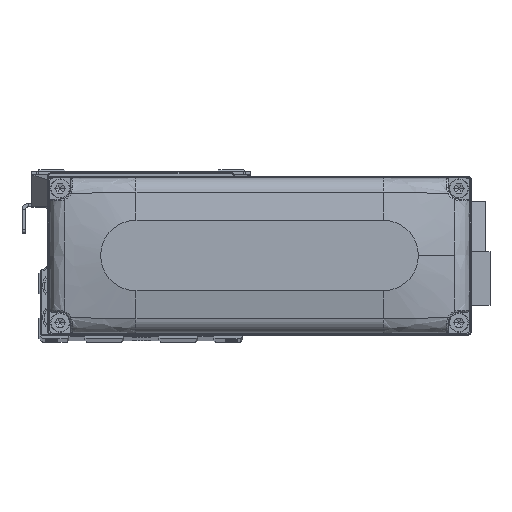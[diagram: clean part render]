
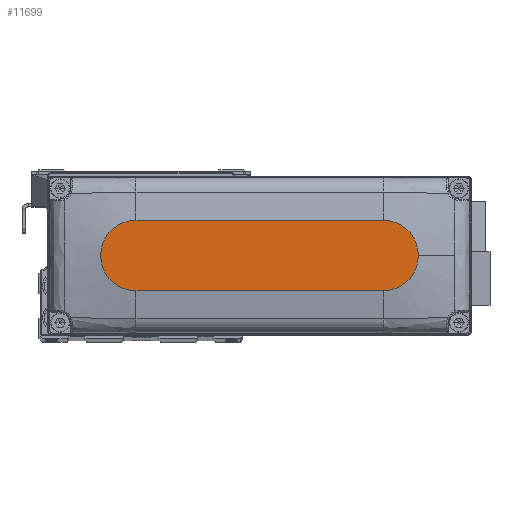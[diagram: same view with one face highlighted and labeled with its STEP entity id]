
A CAD part, top view. The second image highlights one B-rep face of the part: STEP entity #11699.
In plain terms, the highlighted planar face has unit normal (0, 0, 1).
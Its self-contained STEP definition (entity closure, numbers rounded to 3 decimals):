
#324 = DIRECTION ( 'NONE',  ( 0., 0., 1. ) ) ;
#519 = DIRECTION ( 'NONE',  ( -1., 0., 0. ) ) ;
#1099 = CIRCLE ( 'NONE', #25671, 10. ) ;
#1270 = CARTESIAN_POINT ( 'NONE',  ( 35., 0., 28. ) ) ;
#1683 = CARTESIAN_POINT ( 'NONE',  ( 0., 0., 28. ) ) ;
#2601 = CARTESIAN_POINT ( 'NONE',  ( 45., 0., 28. ) ) ;
#3646 = CARTESIAN_POINT ( 'NONE',  ( 35., 0., 28. ) ) ;
#4461 = ORIENTED_EDGE ( 'NONE', *, *, #17756, .T. ) ;
#4503 = EDGE_CURVE ( 'NONE', #38512, #21686, #1099, .T. ) ;
#5297 = LINE ( 'NONE', #18702, #8513 ) ;
#7165 = EDGE_CURVE ( 'NONE', #21686, #17554, #15072, .T. ) ;
#8513 = VECTOR ( 'NONE', #32098, 1000. ) ;
#10632 = ORIENTED_EDGE ( 'NONE', *, *, #35135, .T. ) ;
#11102 = ORIENTED_EDGE ( 'NONE', *, *, #7165, .T. ) ;
#11470 = ORIENTED_EDGE ( 'NONE', *, *, #32830, .T. ) ;
#11699 = ADVANCED_FACE ( 'NONE', ( #18380 ), #31788, .T. ) ;
#13364 = CIRCLE ( 'NONE', #37922, 10. ) ;
#13744 = DIRECTION ( 'NONE',  ( 1., 0., 0. ) ) ;
#14694 = DIRECTION ( 'NONE',  ( 0., 0., 1. ) ) ;
#15072 = CIRCLE ( 'NONE', #39600, 10. ) ;
#15104 = DIRECTION ( 'NONE',  ( 0., 0., 1. ) ) ;
#17068 = DIRECTION ( 'NONE',  ( 0., 0., 1. ) ) ;
#17248 = LINE ( 'NONE', #30640, #26290 ) ;
#17554 = VERTEX_POINT ( 'NONE', #39215 ) ;
#17756 = EDGE_CURVE ( 'NONE', #18684, #40313, #13364, .T. ) ;
#18380 = FACE_OUTER_BOUND ( 'NONE', #28263, .T. ) ;
#18684 = VERTEX_POINT ( 'NONE', #35074 ) ;
#18702 = CARTESIAN_POINT ( 'NONE',  ( -35., -10., 28. ) ) ;
#21686 = VERTEX_POINT ( 'NONE', #2601 ) ;
#25513 = ORIENTED_EDGE ( 'NONE', *, *, #4503, .T. ) ;
#25671 = AXIS2_PLACEMENT_3D ( 'NONE', #3646, #17068, #30464 ) ;
#26290 = VECTOR ( 'NONE', #519, 1000. ) ;
#28086 = DIRECTION ( 'NONE',  ( 1., 0., 0. ) ) ;
#28263 = EDGE_LOOP ( 'NONE', ( #11470, #4461, #10632, #25513, #11102 ) ) ;
#28498 = DIRECTION ( 'NONE',  ( 1., 0., 0. ) ) ;
#30433 = CARTESIAN_POINT ( 'NONE',  ( -35., 0., 28. ) ) ;
#30464 = DIRECTION ( 'NONE',  ( 1., 0., 0. ) ) ;
#30640 = CARTESIAN_POINT ( 'NONE',  ( -35., 10., 28. ) ) ;
#31788 = PLANE ( 'NONE',  #43099 ) ;
#32098 = DIRECTION ( 'NONE',  ( 1., 0., 0. ) ) ;
#32830 = EDGE_CURVE ( 'NONE', #17554, #18684, #17248, .T. ) ;
#32969 = CARTESIAN_POINT ( 'NONE',  ( 35., -10., 28. ) ) ;
#34031 = CARTESIAN_POINT ( 'NONE',  ( -35., -10., 28. ) ) ;
#35074 = CARTESIAN_POINT ( 'NONE',  ( -35., 10., 28. ) ) ;
#35135 = EDGE_CURVE ( 'NONE', #40313, #38512, #5297, .T. ) ;
#37922 = AXIS2_PLACEMENT_3D ( 'NONE', #30433, #324, #13744 ) ;
#38512 = VERTEX_POINT ( 'NONE', #32969 ) ;
#39215 = CARTESIAN_POINT ( 'NONE',  ( 35., 10., 28. ) ) ;
#39600 = AXIS2_PLACEMENT_3D ( 'NONE', #1270, #14694, #28086 ) ;
#40313 = VERTEX_POINT ( 'NONE', #34031 ) ;
#43099 = AXIS2_PLACEMENT_3D ( 'NONE', #1683, #15104, #28498 ) ;
